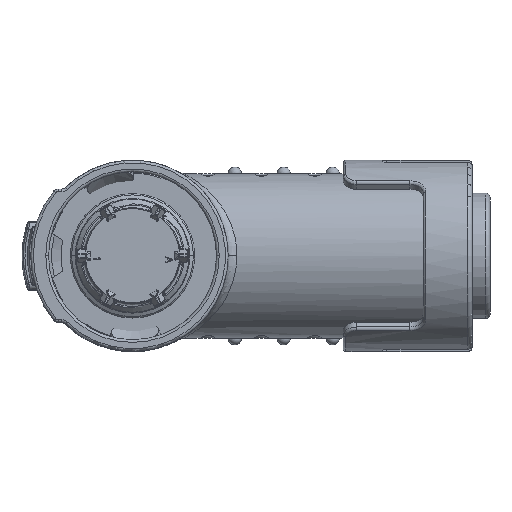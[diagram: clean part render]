
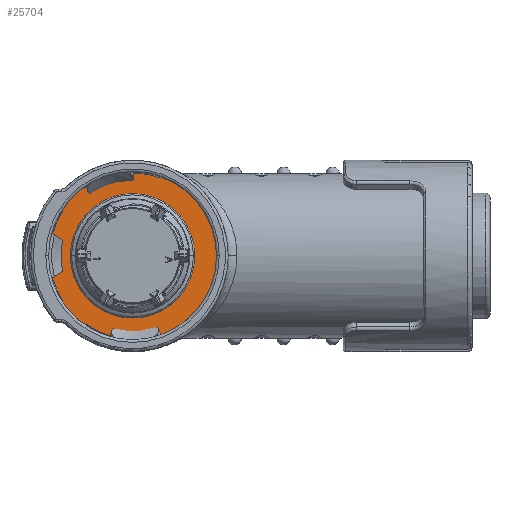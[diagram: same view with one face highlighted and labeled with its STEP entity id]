
A CAD part, top view. The second image highlights one B-rep face of the part: STEP entity #25704.
In plain terms, the highlighted planar face has unit normal (0, 0, 1).
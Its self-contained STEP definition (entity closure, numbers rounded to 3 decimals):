
#4635=CARTESIAN_POINT('',(0.,0.,5.2));
#4636=DIRECTION('',(0.,0.,-1.));
#4637=DIRECTION('',(1.,0.,0.));
#4638=AXIS2_PLACEMENT_3D('',#4635,#4636,#4637);
#4640=CARTESIAN_POINT('',(0.,0.,5.2));
#4641=DIRECTION('',(0.,0.,-1.));
#4642=DIRECTION('',(-1.,0.,0.));
#4643=AXIS2_PLACEMENT_3D('',#4640,#4641,#4642);
#4645=CARTESIAN_POINT('',(0.,0.,5.2));
#4646=DIRECTION('',(0.,0.,1.));
#4647=DIRECTION('',(0.762,0.648,0.));
#4648=AXIS2_PLACEMENT_3D('',#4645,#4646,#4647);
#4650=DIRECTION('',(0.342,-0.94,0.));
#4651=VECTOR('',#4650,0.136);
#4652=CARTESIAN_POINT('',(3.186,-8.753,5.2));
#4653=LINE('',#4652,#4651);
#4654=CARTESIAN_POINT('',(0.,0.,5.2));
#4655=DIRECTION('',(0.,0.,1.));
#4656=DIRECTION('',(-0.574,-0.819,0.));
#4657=AXIS2_PLACEMENT_3D('',#4654,#4655,#4656);
#4659=DIRECTION('',(0.574,0.819,0.));
#4660=VECTOR('',#4659,0.136);
#4661=CARTESIAN_POINT('',(-5.42,-7.741,5.2));
#4662=LINE('',#4661,#4660);
#4663=CARTESIAN_POINT('',(0.,0.,5.2));
#4664=DIRECTION('',(0.,0.,1.));
#4665=DIRECTION('',(-0.849,-0.529,0.));
#4666=AXIS2_PLACEMENT_3D('',#4663,#4664,#4665);
#4668=CARTESIAN_POINT('',(0.,0.,5.2));
#4669=DIRECTION('',(0.,0.,1.));
#4670=DIRECTION('',(-1.,0.,0.));
#4671=AXIS2_PLACEMENT_3D('',#4668,#4669,#4670);
#4673=CARTESIAN_POINT('',(0.,0.,5.2));
#4674=DIRECTION('',(0.,0.,1.));
#4675=DIRECTION('',(-0.844,0.537,0.));
#4676=AXIS2_PLACEMENT_3D('',#4673,#4674,#4675);
#4678=CARTESIAN_POINT('',(0.,0.,5.2));
#4679=DIRECTION('',(0.,0.,1.));
#4680=DIRECTION('',(-0.574,0.819,0.));
#4681=AXIS2_PLACEMENT_3D('',#4678,#4679,#4680);
#4683=DIRECTION('',(-0.574,0.819,0.));
#4684=VECTOR('',#4683,0.136);
#4685=CARTESIAN_POINT('',(-5.343,7.63,5.2));
#4686=LINE('',#4685,#4684);
#4687=CARTESIAN_POINT('',(0.,0.,5.2));
#4688=DIRECTION('',(0.,0.,1.));
#4689=DIRECTION('',(0.342,0.94,0.));
#4690=AXIS2_PLACEMENT_3D('',#4687,#4688,#4689);
#4692=DIRECTION('',(-0.342,-0.94,0.));
#4693=VECTOR('',#4692,0.136);
#4694=CARTESIAN_POINT('',(3.232,8.88,5.2));
#4695=LINE('',#4694,#4693);
#4772=CARTESIAN_POINT('',(0.,0.,5.2));
#4773=DIRECTION('',(0.,0.,1.));
#4774=DIRECTION('',(0.342,-0.94,0.));
#4775=AXIS2_PLACEMENT_3D('',#4772,#4773,#4774);
#5770=DIRECTION('',(1.,0.,0.));
#5771=VECTOR('',#5770,0.16);
#5772=CARTESIAN_POINT('',(-8.019,5.,5.2));
#5773=LINE('',#5772,#5771);
#6168=DIRECTION('',(-1.,0.,0.));
#6169=VECTOR('',#6168,0.16);
#6170=CARTESIAN_POINT('',(-7.859,-5.,5.2));
#6171=LINE('',#6170,#6169);
#15646=CARTESIAN_POINT('',(-6.35,0.,5.2));
#15647=CARTESIAN_POINT('',(6.35,0.,5.2));
#15648=VERTEX_POINT('',#15646);
#15649=VERTEX_POINT('',#15647);
#15650=CARTESIAN_POINT('',(-8.019,-5.,5.2));
#15651=CARTESIAN_POINT('',(-5.42,-7.741,5.2));
#15652=VERTEX_POINT('',#15650);
#15653=VERTEX_POINT('',#15651);
#15654=CARTESIAN_POINT('',(-5.42,7.741,
5.2));
#15655=CARTESIAN_POINT('',(-8.019,5.,5.2));
#15656=VERTEX_POINT('',#15654);
#15657=VERTEX_POINT('',#15655);
#15668=CARTESIAN_POINT('',(3.232,-8.88,5.2));
#15669=VERTEX_POINT('',#15668);
#15761=CARTESIAN_POINT('',(3.232,8.88,5.2));
#15762=VERTEX_POINT('',#15761);
#16875=CARTESIAN_POINT('',(-9.314,0.,5.2));
#16876=VERTEX_POINT('',#16875);
#16878=CARTESIAN_POINT('',(3.186,-8.753,5.2));
#16880=VERTEX_POINT('',#16878);
#16890=CARTESIAN_POINT('',(-7.859,5.,5.2));
#16892=VERTEX_POINT('',#16890);
#16918=CARTESIAN_POINT('',(-7.859,-5.,5.2));
#16919=VERTEX_POINT('',#16918);
#16922=CARTESIAN_POINT('',(-5.343,-7.63,5.2));
#16923=VERTEX_POINT('',#16922);
#16924=CARTESIAN_POINT('',(-5.343,7.63,5.2));
#16925=VERTEX_POINT('',#16924);
#16927=CARTESIAN_POINT('',(3.186,8.753,5.2));
#16929=VERTEX_POINT('',#16927);
#17143=CARTESIAN_POINT('',(7.2,6.121,5.2));
#17145=VERTEX_POINT('',#17143);
#25665=CARTESIAN_POINT('',(0.716,0.,5.2));
#25666=DIRECTION('',(0.,0.,1.));
#25667=DIRECTION('',(1.,0.,0.));
#25668=AXIS2_PLACEMENT_3D('',#25665,#25666,#25667);
#25669=PLANE('',#25668);
#25671=ORIENTED_EDGE('',*,*,#25670,.F.);
#25673=ORIENTED_EDGE('',*,*,#25672,.F.);
#25675=ORIENTED_EDGE('',*,*,#25674,.F.);
#25677=ORIENTED_EDGE('',*,*,#25676,.F.);
#25679=ORIENTED_EDGE('',*,*,#25678,.F.);
#25681=ORIENTED_EDGE('',*,*,#25680,.F.);
#25683=ORIENTED_EDGE('',*,*,#25682,.F.);
#25685=ORIENTED_EDGE('',*,*,#25684,.F.);
#25687=ORIENTED_EDGE('',*,*,#25686,.F.);
#25689=ORIENTED_EDGE('',*,*,#25688,.F.);
#25691=ORIENTED_EDGE('',*,*,#25690,.F.);
#25693=ORIENTED_EDGE('',*,*,#25692,.F.);
#25695=ORIENTED_EDGE('',*,*,#25694,.F.);
#25697=ORIENTED_EDGE('',*,*,#25696,.F.);
#25698=EDGE_LOOP('',(#25671,#25673,#25675,#25677,#25679,#25681,#25683,#25685,
#25687,#25689,#25691,#25693,#25695,#25697));
#25699=FACE_OUTER_BOUND('',#25698,.F.);
#25700=ORIENTED_EDGE('',*,*,#25659,.F.);
#25701=ORIENTED_EDGE('',*,*,#25645,.F.);
#25702=EDGE_LOOP('',(#25700,#25701));
#25703=FACE_BOUND('',#25702,.F.);
#25704=ADVANCED_FACE('',(#25699,#25703),#25669,.T.);
#4639=CIRCLE('',#4638,6.35);
#4644=CIRCLE('',#4643,6.35);
#4649=CIRCLE('',#4648,9.45);
#4658=CIRCLE('',#4657,9.314);
#4667=CIRCLE('',#4666,9.45);
#4672=CIRCLE('',#4671,9.314);
#4677=CIRCLE('',#4676,9.314);
#4682=CIRCLE('',#4681,9.45);
#4691=CIRCLE('',#4690,9.314);
#4776=CIRCLE('',#4775,9.45);
#25645=EDGE_CURVE('',#15648,#15649,#4644,.T.);
#25659=EDGE_CURVE('',#15649,#15648,#4639,.T.);
#25670=EDGE_CURVE('',#17145,#15762,#4649,.T.);
#25672=EDGE_CURVE('',#15669,#17145,#4776,.T.);
#25674=EDGE_CURVE('',#16880,#15669,#4653,.T.);
#25676=EDGE_CURVE('',#16923,#16880,#4658,.T.);
#25678=EDGE_CURVE('',#15653,#16923,#4662,.T.);
#25680=EDGE_CURVE('',#15652,#15653,#4667,.T.);
#25682=EDGE_CURVE('',#16919,#15652,#6171,.T.);
#25684=EDGE_CURVE('',#16876,#16919,#4672,.T.);
#25686=EDGE_CURVE('',#16892,#16876,#4677,.T.);
#25688=EDGE_CURVE('',#15657,#16892,#5773,.T.);
#25690=EDGE_CURVE('',#15656,#15657,#4682,.T.);
#25692=EDGE_CURVE('',#16925,#15656,#4686,.T.);
#25694=EDGE_CURVE('',#16929,#16925,#4691,.T.);
#25696=EDGE_CURVE('',#15762,#16929,#4695,.T.);
